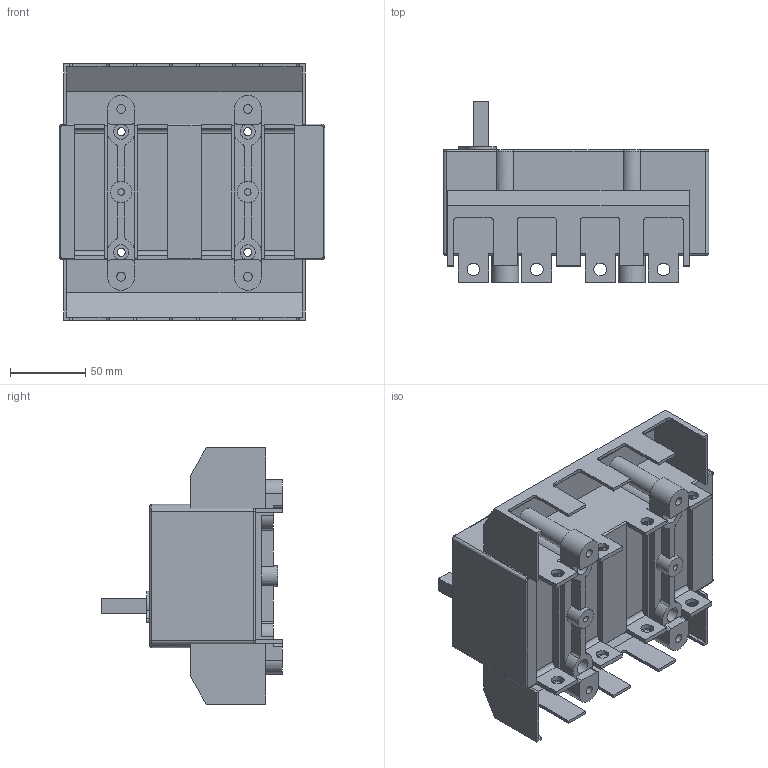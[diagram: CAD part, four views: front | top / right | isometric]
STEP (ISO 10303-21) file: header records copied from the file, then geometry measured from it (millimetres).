
FILE_DESCRIPTION(/* description */ (''),/* implementation_level */ '2;1');
FILE_NAME(/* name */ 'RA160 P3 NC z oslona zaciskow.stp',/* time_stamp */ '2021-08-17T14:53:51+02:00',/* author */ (''),/* organization */ (''),/* preprocessor_version */ 'ST-DEVELOPER v18.1',/* originating_system */ 'SIEMENS PLM Software NX 1965',/* authorisation */ '');
FILE_SCHEMA (('AUTOMOTIVE_DESIGN { 1 0 10303 214 3 1 1 1 }'));
Length unit declared in the file: millimetre
Products named in the file (1): RA160 P3 NC z oslona zaciskow_stp
Bounding box: 176 x 120 x 169.8 mm (x, y, z)
Volume: 1202782.9 mm3; surface area: 159482.1 mm2
Topology: 1 solids, 1 shells, 320 faces, 914 edges, 594 vertices
Faces by surface type: plane 178, cylinder 130, torus 7, bspline 5
Full cylindrical faces by diameter (mm): 4.3 x2, 5.3 x4, 5.8 x4, 8.5 x8, 10 x12, 13 x4, 14 x2
Entity records: 10319 total; most frequent: CARTESIAN_POINT 1912, DIRECTION 1760, ORIENTED_EDGE 1716, EDGE_CURVE 858, AXIS2_PLACEMENT_3D 602, VERTEX_POINT 574, LINE 556, VECTOR 556
